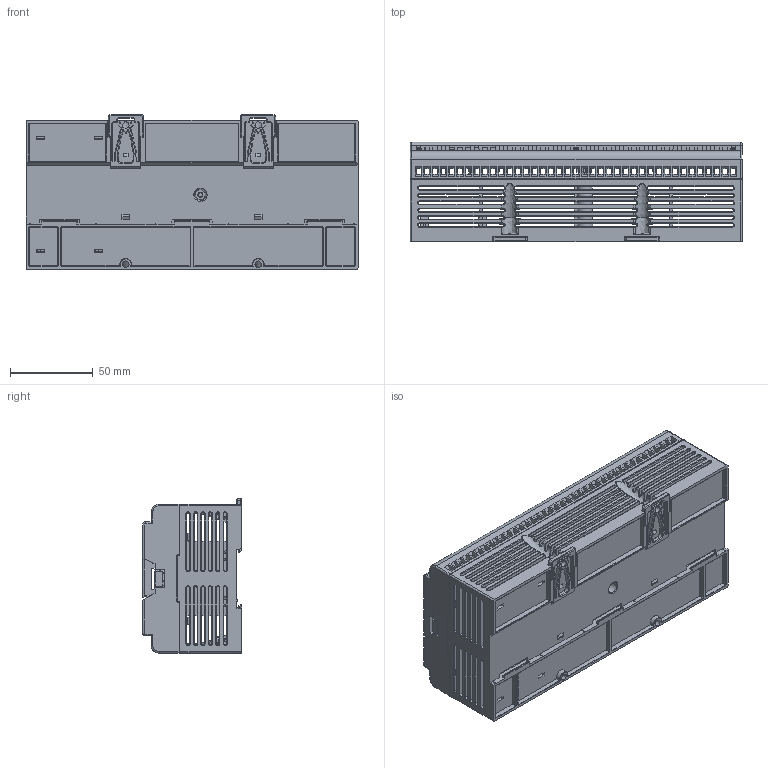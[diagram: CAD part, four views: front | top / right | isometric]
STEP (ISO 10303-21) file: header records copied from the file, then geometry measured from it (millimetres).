
FILE_DESCRIPTION(/* description */ (''),/* implementation_level */ '2;1');
FILE_NAME(/* name */ 'b1-60m-standard-20210609',/* time_stamp */ '2021-12-03T20:04:58+08:00',/* author */ (''),/* organization */ (''),/* preprocessor_version */ 'ST-DEVELOPER v16.5',/* originating_system */ '',/* authorisation */ '');
FILE_SCHEMA (('AUTOMOTIVE_DESIGN'));
Products named in the file (7): Document; B1-NEW-60M-UP_COVER; B1-60M-IO2_COVER; CV_PS; B1-60M-DOWN_COVER_ASM; B1-60M-DOWN_COVER; JOIN
Assembly tree (7 placements, depth 3):
  Document
    B1-NEW-60M-UP_COVER
    B1-60M-IO2_COVER
    CV_PS
    B1-60M-DOWN_COVER_ASM
      B1-60M-DOWN_COVER
      JOIN  x2
Bounding box: 200.4 x 60.15 x 93.25 mm (x, y, z)
Volume: 140028.4 mm3; surface area: 175981.5 mm2
Topology: 6 solids, 6 shells, 4373 faces, 12960 edges, 8290 vertices
Faces by surface type: plane 2861, bspline 1512
Entity records: 180042 total; most frequent: CARTESIAN_POINT 100618, ORIENTED_EDGE 25152, EDGE_CURVE 12576, B_SPLINE_CURVE_WITH_KNOTS 10918, VERTEX_POINT 8071, EDGE_LOOP 4901, ADVANCED_FACE 4208, FACE_OUTER_BOUND 4208
